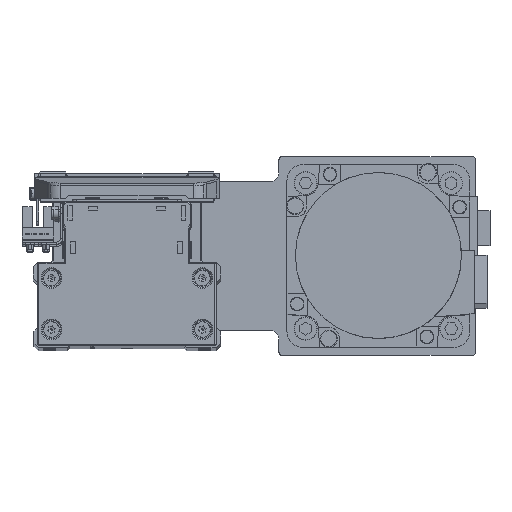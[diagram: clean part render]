
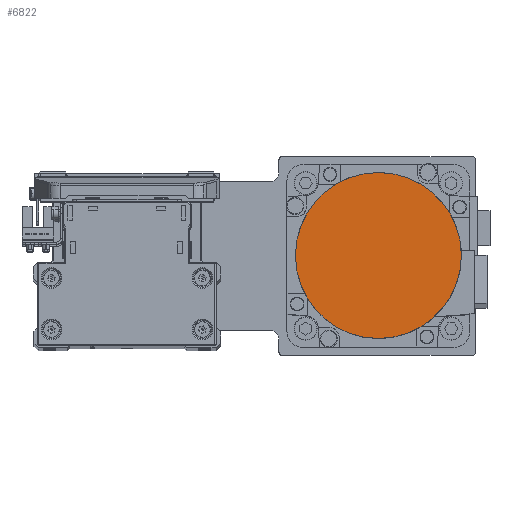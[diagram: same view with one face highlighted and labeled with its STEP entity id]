
A CAD part, top view. The second image highlights one B-rep face of the part: STEP entity #6822.
In plain terms, the highlighted planar face has unit normal (0, 0, 1) as drawn and (0, 0, -1) by its records, which use the part's own axes.
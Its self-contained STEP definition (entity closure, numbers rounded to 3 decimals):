
#3446 = CARTESIAN_POINT ( 'NONE',  ( 0., -36.3, -122.2 ) ) ;
#4573 = AXIS2_PLACEMENT_3D ( 'NONE', #23984, #36229, #8744 ) ;
#5079 = AXIS2_PLACEMENT_3D ( 'NONE', #23217, #35468, #8002 ) ;
#5361 = EDGE_CURVE ( 'NONE', #21409, #30369, #21834, .T. ) ;
#6549 = DIRECTION ( 'NONE',  ( 0., 0., 1. ) ) ;
#6614 = CARTESIAN_POINT ( 'NONE',  ( 0., 36.3, -122.2 ) ) ;
#6822 = ADVANCED_FACE ( 'NONE', ( #9541 ), #21753, .F. ) ;
#7277 = ORIENTED_EDGE ( 'NONE', *, *, #31886, .F. ) ;
#8002 = DIRECTION ( 'NONE',  ( 0., 1., 0. ) ) ;
#8744 = DIRECTION ( 'NONE',  ( 0., -1., 0. ) ) ;
#9541 = FACE_OUTER_BOUND ( 'NONE', #15303, .T. ) ;
#10737 = ORIENTED_EDGE ( 'NONE', *, *, #5361, .F. ) ;
#15303 = EDGE_LOOP ( 'NONE', ( #7277, #10737 ) ) ;
#18764 = DIRECTION ( 'NONE',  ( 1., 0., 0. ) ) ;
#21409 = VERTEX_POINT ( 'NONE', #3446 ) ;
#21753 = PLANE ( 'NONE',  #34164 ) ;
#21834 = CIRCLE ( 'NONE', #4573, 36.3 ) ;
#22333 = CIRCLE ( 'NONE', #5079, 36.3 ) ;
#23217 = CARTESIAN_POINT ( 'NONE',  ( 0., 0., -122.2 ) ) ;
#23984 = CARTESIAN_POINT ( 'NONE',  ( 0., 0., -122.2 ) ) ;
#30369 = VERTEX_POINT ( 'NONE', #6614 ) ;
#31886 = EDGE_CURVE ( 'NONE', #30369, #21409, #22333, .T. ) ;
#34019 = CARTESIAN_POINT ( 'NONE',  ( 0., 0., -122.2 ) ) ;
#34164 = AXIS2_PLACEMENT_3D ( 'NONE', #34019, #6549, #18764 ) ;
#35468 = DIRECTION ( 'NONE',  ( 0., 0., 1. ) ) ;
#36229 = DIRECTION ( 'NONE',  ( 0., 0., 1. ) ) ;
